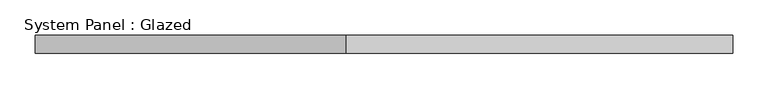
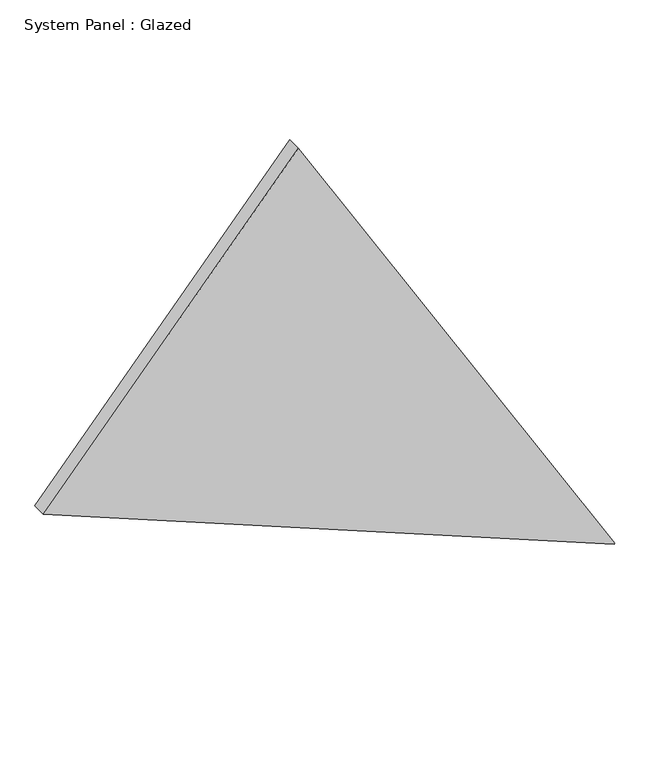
"""IFC4 building model written with IfcOpenShell, lengths in millimetres: plate geometry, System Panel : Glazed."""

from ifc_helpers import new_model, si_unit, frame, origin, place, context, project, spatial, polyline, outline, extrude, source, transform, mapped, element, save


def system_panel_glazed_fc6d615b(model_context):
    return source(origin(), model_context, "Body", "SweptSolid", [
        extrude(outline(polyline([(0.0, 492.6412184), (1.2324124, 493.696122), (914.0815291, -53.4695228), (399.7779428, -493.696122), (0.0, 492.6412184)])), frame((0.0, -44.45, 0.0), z_axis=(0.0, 1.0, 0.0), x_axis=(0.0, 0.0, 1.0)), (0.0, 0.0, 1.0), 25.4),
    ])


if __name__ == "__main__":
    model = new_model("IFC4")
    model_context = context("Model", 3, world=origin())
    ifc_project = project(units=[si_unit("LENGTHUNIT", "METRE", prefix="MILLI")], contexts=[model_context])
    site = spatial("IfcSite", under=ifc_project)
    building = spatial("IfcBuilding", under=site)
    placement = place(None, origin())
    system_panel_glazed_shape = system_panel_glazed_fc6d615b(model_context)
    element("IfcPlate", 1, ObjectType="System Panel : Glazed", at=placement, inside=building, context=model_context, shape_type="MappedRepresentation", body=[
        mapped(system_panel_glazed_shape, transform((0.0, 0.0, 0.0), x_axis=(1.0, 0.0, 0.0), y_axis=(0.0, 1.0, 0.0), z_axis=(0.0, 0.0, 1.0))),
    ])
    save(model, "model.ifc")
